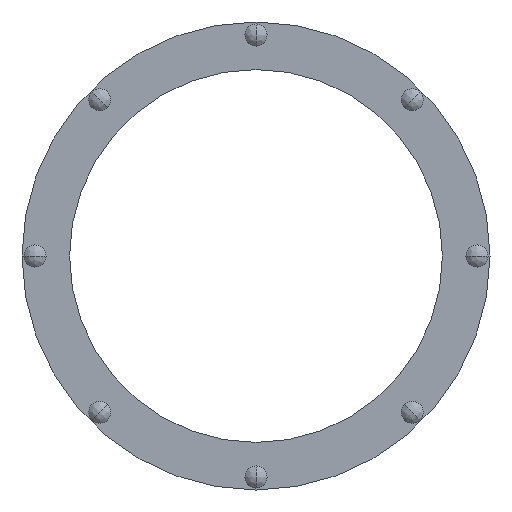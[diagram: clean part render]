
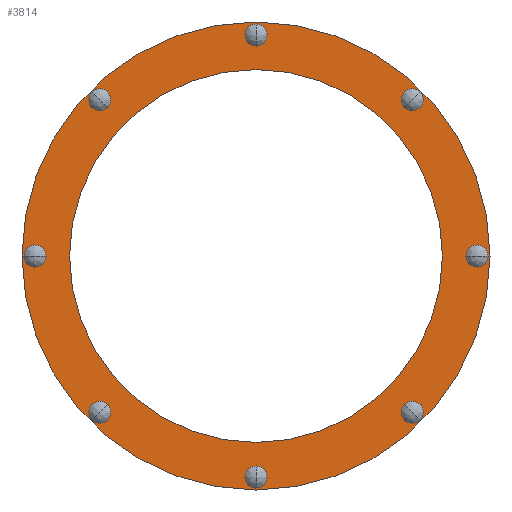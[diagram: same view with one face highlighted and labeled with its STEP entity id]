
A CAD part, front view. The second image highlights one B-rep face of the part: STEP entity #3814.
In plain terms, the highlighted planar face has unit normal (0, -1, 0).
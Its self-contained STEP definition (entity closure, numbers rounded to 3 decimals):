
#1329=CARTESIAN_POINT('',(0.,-151.,0.));
#1330=DIRECTION('',(0.,-1.,0.));
#1331=DIRECTION('',(-1.,0.,0.));
#1332=AXIS2_PLACEMENT_3D('',#1329,#1330,#1331);
#1338=CARTESIAN_POINT('',(0.,-151.,0.));
#1339=DIRECTION('',(0.,1.,0.));
#1340=DIRECTION('',(-1.,0.,0.));
#1341=AXIS2_PLACEMENT_3D('',#1338,#1339,#1340);
#1347=CARTESIAN_POINT('',(0.,-151.,0.));
#1348=DIRECTION('',(0.,-1.,0.));
#1349=DIRECTION('',(-1.,0.,0.));
#1350=AXIS2_PLACEMENT_3D('',#1347,#1348,#1349);
#1352=CARTESIAN_POINT('',(0.,-151.,0.));
#1353=DIRECTION('',(0.,1.,0.));
#1354=DIRECTION('',(-1.,0.,0.));
#1355=AXIS2_PLACEMENT_3D('',#1352,#1353,#1354);
#1357=CARTESIAN_POINT('',(-255.5,-151.,0.));
#1358=DIRECTION('',(0.,1.,0.));
#1359=DIRECTION('',(-1.,0.,0.));
#1360=AXIS2_PLACEMENT_3D('',#1357,#1358,#1359);
#1362=CARTESIAN_POINT('',(-255.5,-151.,0.));
#1363=DIRECTION('',(0.,1.,0.));
#1364=DIRECTION('',(1.,0.,0.));
#1365=AXIS2_PLACEMENT_3D('',#1362,#1363,#1364);
#1367=CARTESIAN_POINT('',(-180.666,-151.,-180.666));
#1368=DIRECTION('',(0.,1.,0.));
#1369=DIRECTION('',(-0.707,0.,-0.707));
#1370=AXIS2_PLACEMENT_3D('',#1367,#1368,#1369);
#1372=CARTESIAN_POINT('',(-180.666,-151.,-180.666));
#1373=DIRECTION('',(0.,1.,0.));
#1374=DIRECTION('',(0.707,0.,0.707));
#1375=AXIS2_PLACEMENT_3D('',#1372,#1373,#1374);
#1377=CARTESIAN_POINT('',(0.,-151.,-255.5));
#1378=DIRECTION('',(0.,1.,0.));
#1379=DIRECTION('',(0.,0.,-1.));
#1380=AXIS2_PLACEMENT_3D('',#1377,#1378,#1379);
#1382=CARTESIAN_POINT('',(0.,-151.,-255.5));
#1383=DIRECTION('',(0.,1.,0.));
#1384=DIRECTION('',(0.,0.,1.));
#1385=AXIS2_PLACEMENT_3D('',#1382,#1383,#1384);
#1387=CARTESIAN_POINT('',(180.666,-151.,-180.666));
#1388=DIRECTION('',(0.,1.,0.));
#1389=DIRECTION('',(0.707,0.,-0.707));
#1390=AXIS2_PLACEMENT_3D('',#1387,#1388,#1389);
#1392=CARTESIAN_POINT('',(180.666,-151.,-180.666));
#1393=DIRECTION('',(0.,1.,0.));
#1394=DIRECTION('',(-0.707,0.,0.707));
#1395=AXIS2_PLACEMENT_3D('',#1392,#1393,#1394);
#1397=CARTESIAN_POINT('',(255.5,-151.,0.));
#1398=DIRECTION('',(0.,1.,0.));
#1399=DIRECTION('',(1.,0.,0.));
#1400=AXIS2_PLACEMENT_3D('',#1397,#1398,#1399);
#1402=CARTESIAN_POINT('',(255.5,-151.,0.));
#1403=DIRECTION('',(0.,1.,0.));
#1404=DIRECTION('',(-1.,0.,0.));
#1405=AXIS2_PLACEMENT_3D('',#1402,#1403,#1404);
#1407=CARTESIAN_POINT('',(180.666,-151.,180.666));
#1408=DIRECTION('',(0.,1.,0.));
#1409=DIRECTION('',(0.707,0.,0.707));
#1410=AXIS2_PLACEMENT_3D('',#1407,#1408,#1409);
#1412=CARTESIAN_POINT('',(180.666,-151.,180.666));
#1413=DIRECTION('',(0.,1.,0.));
#1414=DIRECTION('',(-0.707,0.,-0.707));
#1415=AXIS2_PLACEMENT_3D('',#1412,#1413,#1414);
#1417=CARTESIAN_POINT('',(0.,-151.,255.5));
#1418=DIRECTION('',(0.,1.,0.));
#1419=DIRECTION('',(0.,0.,1.));
#1420=AXIS2_PLACEMENT_3D('',#1417,#1418,#1419);
#1422=CARTESIAN_POINT('',(0.,-151.,255.5));
#1423=DIRECTION('',(0.,1.,0.));
#1424=DIRECTION('',(0.,0.,-1.));
#1425=AXIS2_PLACEMENT_3D('',#1422,#1423,#1424);
#1427=CARTESIAN_POINT('',(-180.666,-151.,180.666));
#1428=DIRECTION('',(0.,1.,0.));
#1429=DIRECTION('',(-0.707,0.,0.707));
#1430=AXIS2_PLACEMENT_3D('',#1427,#1428,#1429);
#1432=CARTESIAN_POINT('',(-180.666,-151.,180.666));
#1433=DIRECTION('',(0.,1.,0.));
#1434=DIRECTION('',(0.707,0.,-0.707));
#1435=AXIS2_PLACEMENT_3D('',#1432,#1433,#1434);
#2627=CARTESIAN_POINT('',(-270.5,-151.,0.));
#2629=VERTEX_POINT('',#2627);
#2630=CARTESIAN_POINT('',(-215.5,-151.,0.));
#2632=VERTEX_POINT('',#2630);
#2645=CARTESIAN_POINT('',(270.5,-151.,0.));
#2647=VERTEX_POINT('',#2645);
#2648=CARTESIAN_POINT('',(215.5,-151.,0.));
#2650=VERTEX_POINT('',#2648);
#2718=CARTESIAN_POINT('',(-268.25,-151.,0.));
#2719=VERTEX_POINT('',#2718);
#2720=CARTESIAN_POINT('',(-242.75,-151.,0.));
#2721=VERTEX_POINT('',#2720);
#2760=CARTESIAN_POINT('',(-189.681,-151.,-189.681));
#2761=VERTEX_POINT('',#2760);
#2762=CARTESIAN_POINT('',(-171.65,-151.,-171.65));
#2763=VERTEX_POINT('',#2762);
#2802=CARTESIAN_POINT('',(0.,-151.,-268.25));
#2803=VERTEX_POINT('',#2802);
#2804=CARTESIAN_POINT('',(0.,-151.,-242.75));
#2805=VERTEX_POINT('',#2804);
#2844=CARTESIAN_POINT('',(189.681,-151.,-189.681));
#2845=VERTEX_POINT('',#2844);
#2846=CARTESIAN_POINT('',(171.65,-151.,-171.65));
#2847=VERTEX_POINT('',#2846);
#2886=CARTESIAN_POINT('',(268.25,-151.,0.));
#2887=VERTEX_POINT('',#2886);
#2888=CARTESIAN_POINT('',(242.75,-151.,0.));
#2889=VERTEX_POINT('',#2888);
#2928=CARTESIAN_POINT('',(189.681,-151.,189.681));
#2929=VERTEX_POINT('',#2928);
#2930=CARTESIAN_POINT('',(171.65,-151.,171.65));
#2931=VERTEX_POINT('',#2930);
#2990=CARTESIAN_POINT('',(0.,-151.,268.25));
#2991=VERTEX_POINT('',#2990);
#2992=CARTESIAN_POINT('',(0.,-151.,242.75));
#2993=VERTEX_POINT('',#2992);
#3032=CARTESIAN_POINT('',(-189.681,-151.,189.681));
#3033=VERTEX_POINT('',#3032);
#3034=CARTESIAN_POINT('',(-171.65,-151.,171.65));
#3035=VERTEX_POINT('',#3034);
#3751=CARTESIAN_POINT('',(0.,-151.,0.));
#3752=DIRECTION('',(0.,-1.,0.));
#3753=DIRECTION('',(-1.,0.,0.));
#3754=AXIS2_PLACEMENT_3D('',#3751,#3752,#3753);
#3755=PLANE('',#3754);
#3757=ORIENTED_EDGE('',*,*,#3756,.F.);
#3759=ORIENTED_EDGE('',*,*,#3758,.T.);
#3760=EDGE_LOOP('',(#3757,#3759));
#3761=FACE_OUTER_BOUND('',#3760,.F.);
#3762=ORIENTED_EDGE('',*,*,#3744,.F.);
#3763=ORIENTED_EDGE('',*,*,#3733,.T.);
#3764=EDGE_LOOP('',(#3762,#3763));
#3765=FACE_BOUND('',#3764,.F.);
#3767=ORIENTED_EDGE('',*,*,#3766,.F.);
#3769=ORIENTED_EDGE('',*,*,#3768,.F.);
#3770=EDGE_LOOP('',(#3767,#3769));
#3771=FACE_BOUND('',#3770,.F.);
#3773=ORIENTED_EDGE('',*,*,#3772,.F.);
#3775=ORIENTED_EDGE('',*,*,#3774,.F.);
#3776=EDGE_LOOP('',(#3773,#3775));
#3777=FACE_BOUND('',#3776,.F.);
#3779=ORIENTED_EDGE('',*,*,#3778,.F.);
#3781=ORIENTED_EDGE('',*,*,#3780,.F.);
#3782=EDGE_LOOP('',(#3779,#3781));
#3783=FACE_BOUND('',#3782,.F.);
#3785=ORIENTED_EDGE('',*,*,#3784,.F.);
#3787=ORIENTED_EDGE('',*,*,#3786,.F.);
#3788=EDGE_LOOP('',(#3785,#3787));
#3789=FACE_BOUND('',#3788,.F.);
#3791=ORIENTED_EDGE('',*,*,#3790,.F.);
#3793=ORIENTED_EDGE('',*,*,#3792,.F.);
#3794=EDGE_LOOP('',(#3791,#3793));
#3795=FACE_BOUND('',#3794,.F.);
#3797=ORIENTED_EDGE('',*,*,#3796,.F.);
#3799=ORIENTED_EDGE('',*,*,#3798,.F.);
#3800=EDGE_LOOP('',(#3797,#3799));
#3801=FACE_BOUND('',#3800,.F.);
#3803=ORIENTED_EDGE('',*,*,#3802,.F.);
#3805=ORIENTED_EDGE('',*,*,#3804,.F.);
#3806=EDGE_LOOP('',(#3803,#3805));
#3807=FACE_BOUND('',#3806,.F.);
#3809=ORIENTED_EDGE('',*,*,#3808,.F.);
#3811=ORIENTED_EDGE('',*,*,#3810,.F.);
#3812=EDGE_LOOP('',(#3809,#3811));
#3813=FACE_BOUND('',#3812,.F.);
#3814=ADVANCED_FACE('',(#3761,#3765,#3771,#3777,#3783,#3789,#3795,#3801,#3807,
#3813),#3755,.T.);
#1333=CIRCLE('',#1332,215.5);
#1342=CIRCLE('',#1341,215.5);
#1351=CIRCLE('',#1350,270.5);
#1356=CIRCLE('',#1355,270.5);
#1361=CIRCLE('',#1360,12.75);
#1366=CIRCLE('',#1365,12.75);
#1371=CIRCLE('',#1370,12.75);
#1376=CIRCLE('',#1375,12.75);
#1381=CIRCLE('',#1380,12.75);
#1386=CIRCLE('',#1385,12.75);
#1391=CIRCLE('',#1390,12.75);
#1396=CIRCLE('',#1395,12.75);
#1401=CIRCLE('',#1400,12.75);
#1406=CIRCLE('',#1405,12.75);
#1411=CIRCLE('',#1410,12.75);
#1416=CIRCLE('',#1415,12.75);
#1421=CIRCLE('',#1420,12.75);
#1426=CIRCLE('',#1425,12.75);
#1431=CIRCLE('',#1430,12.75);
#1436=CIRCLE('',#1435,12.75);
#3733=EDGE_CURVE('',#2632,#2650,#1333,.T.);
#3744=EDGE_CURVE('',#2632,#2650,#1342,.T.);
#3756=EDGE_CURVE('',#2629,#2647,#1351,.T.);
#3758=EDGE_CURVE('',#2629,#2647,#1356,.T.);
#3766=EDGE_CURVE('',#2719,#2721,#1361,.T.);
#3768=EDGE_CURVE('',#2721,#2719,#1366,.T.);
#3772=EDGE_CURVE('',#2761,#2763,#1371,.T.);
#3774=EDGE_CURVE('',#2763,#2761,#1376,.T.);
#3778=EDGE_CURVE('',#2803,#2805,#1381,.T.);
#3780=EDGE_CURVE('',#2805,#2803,#1386,.T.);
#3784=EDGE_CURVE('',#2845,#2847,#1391,.T.);
#3786=EDGE_CURVE('',#2847,#2845,#1396,.T.);
#3790=EDGE_CURVE('',#2887,#2889,#1401,.T.);
#3792=EDGE_CURVE('',#2889,#2887,#1406,.T.);
#3796=EDGE_CURVE('',#2929,#2931,#1411,.T.);
#3798=EDGE_CURVE('',#2931,#2929,#1416,.T.);
#3802=EDGE_CURVE('',#2991,#2993,#1421,.T.);
#3804=EDGE_CURVE('',#2993,#2991,#1426,.T.);
#3808=EDGE_CURVE('',#3033,#3035,#1431,.T.);
#3810=EDGE_CURVE('',#3035,#3033,#1436,.T.);
